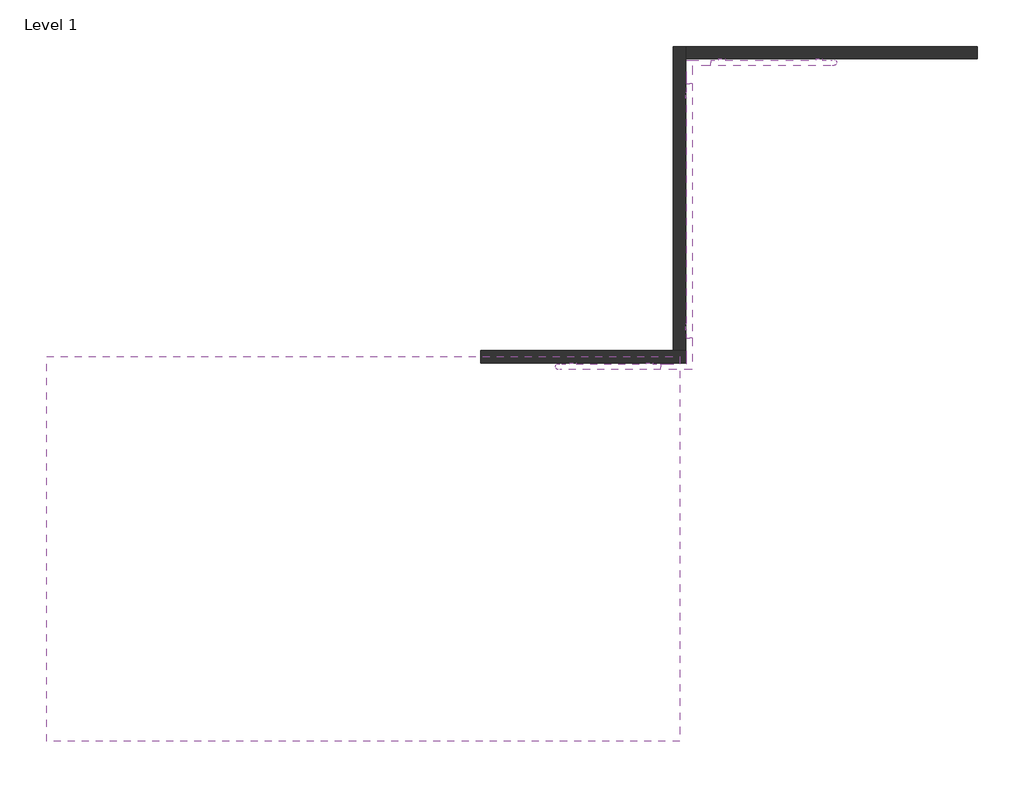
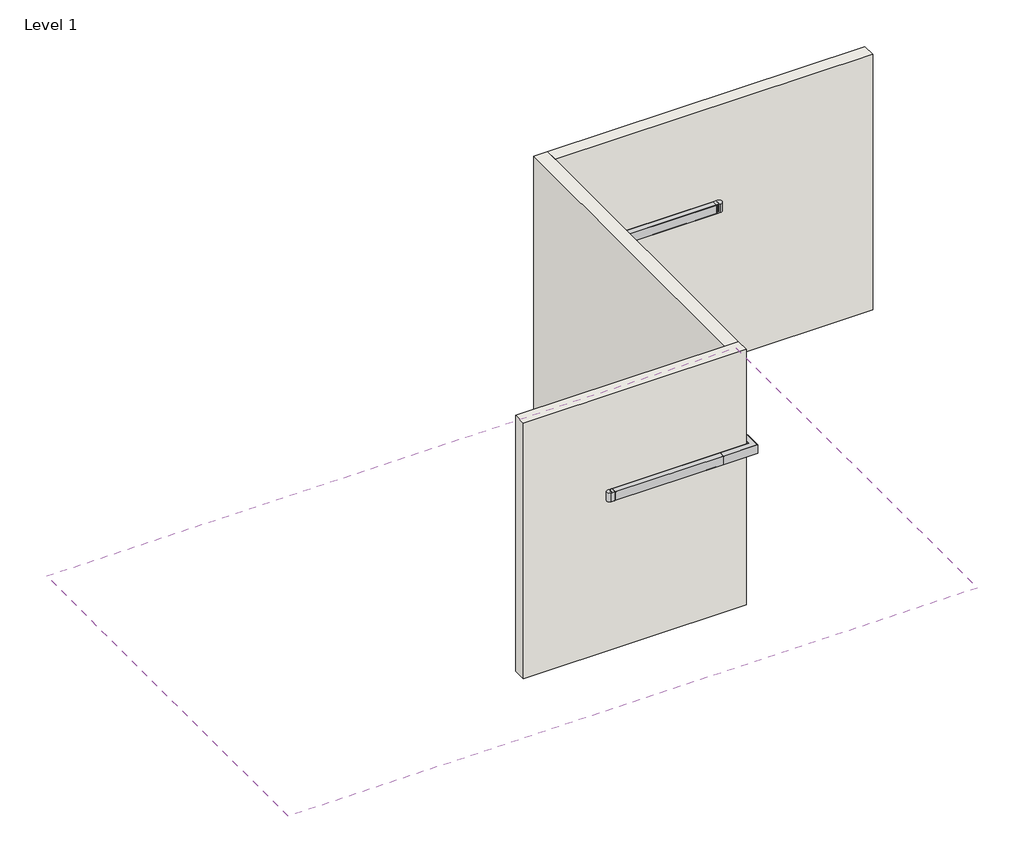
# One storey: 5 light fixtures, 3 walls, 1 covering.
"""IFC4 building model written with IfcOpenShell, lengths in millimetres."""

from ifc_helpers import new_model, si_unit, frame, origin, origin_with_axes, place, context, project, spatial, polyline, outline, extrude, faceted_brep, transform, mapped, element, save
from components import light_fixture_26ced0eb, light_fixture_3d811801, light_fixture_3b8be05b, custom_f3685a3f, custom_e916104d

model = new_model("IFC4")

# Units and contexts
model_context = context("Model", 3, world=origin())
ifc_project = project(units=[si_unit("LENGTHUNIT", "METRE", prefix="MILLI")], contexts=[model_context])

# Site, building, storey
site = spatial("IfcSite", under=ifc_project)
building = spatial("IfcBuilding", under=site)
storey = spatial("IfcBuildingStorey", under=building, Name="Level 1", Elevation=0.0)

# Covering
placement = place(None, origin())
element("IfcCovering", 1, ObjectType="2' x 4' ACT System", at=placement, inside=storey, context=model_context, shape_type="SweptSolid", body=[
    extrude(outline(polyline([(-4065.5199774, 6283.1270347), (3706.8800226, 6283.1270347), (3706.8800226, 1558.7270347), (-4065.5199774, 1558.7270347), (-4065.5199774, 6283.1270347)])), frame((0.0, 0.0, 3048.0), z_axis=(0.0, 0.0, 1.0), x_axis=(1.0, 0.0, 0.0)), (0.0, 0.0, 1.0), 57.15),
])

# Light fixtures
light_fixture_shape = light_fixture_26ced0eb(model_context)
element("IfcLightFixture", 2, ObjectType="Lighting-Wall-Betacalco-Block-Straight : BLKW-DT1-PW01-TR01-SL04-EP01-LP020-CR80-CTA40", at=placement, inside=storey, context=model_context, shape_type="MappedRepresentation", body=[
    mapped(light_fixture_shape, transform((2868.6800226, 6206.9270347, 1828.8), x_axis=(1.0, 0.0, 0.0), y_axis=(0.0, 0.0, 1.0), z_axis=(0.0, -1.0, 0.0))),
])
light_fixture_2_shape = light_fixture_3d811801(model_context)
element("IfcLightFixture", 3, ObjectType="Lighting-Wall-Betacalco-Block-Straight : BLKW-DT1-PW01-TR01-SL04-EP01-LP020-CR80-CTA40", at=placement, inside=storey, context=model_context, shape_type="MappedRepresentation", body=[
    mapped(light_fixture_2_shape, transform((3783.0800226, 8074.6207847, 1828.8), x_axis=(0.0, 1.0, 0.0), y_axis=(0.0, 0.0, 1.0), z_axis=(1.0, 0.0, 0.0))),
])
light_fixture_3_shape = light_fixture_3b8be05b(model_context)
element("IfcLightFixture", 4, ObjectType="Lighting-Wall-Betacalco-Block-Straight : BLKW-DT1-PW01-TR01-SL04-EP01-LP020-CR80-CTA40", at=placement, inside=storey, context=model_context, shape_type="MappedRepresentation", body=[
    mapped(light_fixture_3_shape, transform((4824.4800226, 9942.3145347, 1828.8), x_axis=(1.0, 0.0, 0.0), y_axis=(0.0, 0.0, 1.0), z_axis=(0.0, -1.0, 0.0))),
])
custom_shape = custom_f3685a3f(model_context)
element("IfcLightFixture", 5, ObjectType="Lighting-Wall-Betacalco-Block-Corner-Outside : Custom", at=placement, inside=storey, context=model_context, shape_type="MappedRepresentation", body=[
    mapped(custom_shape, transform((3783.0800226, 6206.9270347, 1828.8), x_axis=(1.0, 0.0, 0.0), y_axis=(0.0, 0.0, 1.0), z_axis=(0.0, -1.0, 0.0))),
])
custom_2_shape = custom_e916104d(model_context)
element("IfcLightFixture", 6, ObjectType="Lighting-Wall-Betacalco-Block-Corner-Inside : Custom", at=placement, inside=storey, context=model_context, shape_type="MappedRepresentation", body=[
    mapped(custom_2_shape, transform((3783.0800226, 9942.3145347, 1828.8), x_axis=(0.0, 1.0, 0.0), y_axis=(0.0, 0.0, 1.0), z_axis=(1.0, 0.0, 0.0))),
])

# Walls
element("IfcWall", 7, ObjectType="Generic", at=placement, inside=storey, context=model_context, shape_type="Brep", body=[
    faceted_brep([(3783.0800226, 6359.3270347, 0.0), (3630.6800226, 6359.3270347, 0.0), (1268.4800226, 6359.3270347, 0.0), (1268.4800226, 6359.3270347, 3048.0), (3630.6800226, 6359.3270347, 3048.0), (3783.0800226, 6359.3270347, 3048.0), (3783.0800226, 6206.9270347, 0.0), (3783.0800226, 6206.9270347, 3048.0), (1268.4800226, 6206.9270347, 3048.0), (1268.4800226, 6206.9270347, 0.0)], [[[0, 1, 2, 3, 4, 5]], [[6, 7, 8, 9]], [[2, 1, 0, 6, 9]], [[3, 2, 9, 8]], [[5, 4, 3, 8, 7]], [[0, 5, 7, 6]]]),
])
element("IfcWall", 8, ObjectType="Generic", at=placement, inside=storey, context=model_context, shape_type="Brep", body=[
    faceted_brep([(3783.0800226, 6359.3270347, 0.0), (3783.0800226, 9942.3145347, 0.0), (3783.0800226, 10094.7145347, 0.0), (3783.0800226, 10094.7145347, 3048.0), (3783.0800226, 9942.3145347, 3048.0), (3783.0800226, 6359.3270347, 3048.0), (3630.6800226, 6359.3270347, 0.0), (3630.6800226, 6359.3270347, 3048.0), (3630.6800226, 10094.7145347, 3048.0), (3630.6800226, 10094.7145347, 0.0)], [[[0, 1, 2, 3, 4, 5]], [[6, 7, 8, 9]], [[2, 1, 0, 6, 9]], [[5, 4, 3, 8, 7]], [[0, 5, 7, 6]], [[3, 2, 9, 8]]]),
])
element("IfcWall", 9, ObjectType="Generic", at=placement, inside=storey, context=model_context, shape_type="SweptSolid", body=[
    extrude(outline(polyline([(7364.4800226, 9942.3145347), (3783.0800226, 9942.3145347), (3783.0800226, 10094.7145347), (7364.4800226, 10094.7145347), (7364.4800226, 9942.3145347)])), origin_with_axes(), (0.0, 0.0, 1.0), 3048.0),
])

save(model, "model.ifc")
